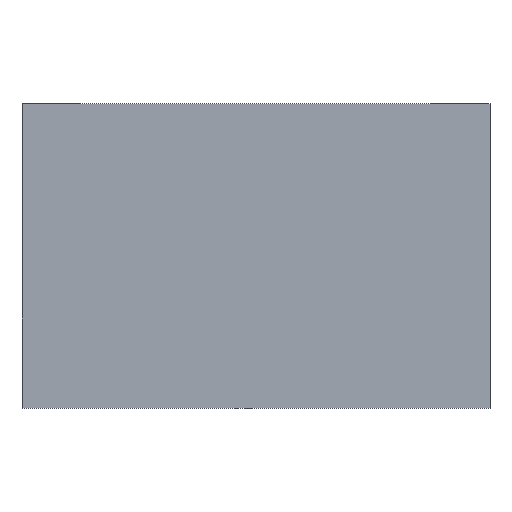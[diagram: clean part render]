
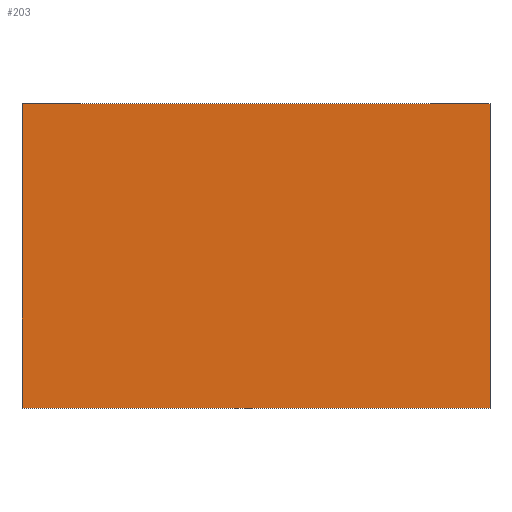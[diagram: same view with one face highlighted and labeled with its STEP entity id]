
A CAD part, top view. The second image highlights one B-rep face of the part: STEP entity #203.
In plain terms, the highlighted planar face has unit normal (0, 0, 1).
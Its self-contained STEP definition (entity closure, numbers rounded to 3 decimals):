
#37 = FACE_OUTER_BOUND ( 'NONE', #604, .T. ) ;
#38 = CARTESIAN_POINT ( 'NONE',  ( 10., 11.1, 0. ) ) ;
#45 = VERTEX_POINT ( 'NONE', #630 ) ;
#84 = DIRECTION ( 'NONE',  ( -1., 0., 0. ) ) ;
#95 = CARTESIAN_POINT ( 'NONE',  ( 10., 11.1, 0. ) ) ;
#167 = VERTEX_POINT ( 'NONE', #597 ) ;
#180 = EDGE_CURVE ( 'NONE', #446, #45, #657, .T. ) ;
#203 = ADVANCED_FACE ( 'NONE', ( #37 ), #460, .F. ) ;
#213 = VECTOR ( 'NONE', #297, 1000. ) ;
#233 = LINE ( 'NONE', #240, #317 ) ;
#238 = DIRECTION ( 'NONE',  ( 0., 0., -1. ) ) ;
#240 = CARTESIAN_POINT ( 'NONE',  ( 10., -1.9, 0. ) ) ;
#244 = EDGE_CURVE ( 'NONE', #45, #619, #557, .T. ) ;
#289 = ORIENTED_EDGE ( 'NONE', *, *, #180, .T. ) ;
#297 = DIRECTION ( 'NONE',  ( -1., 0., 0. ) ) ;
#306 = ORIENTED_EDGE ( 'NONE', *, *, #398, .F. ) ;
#317 = VECTOR ( 'NONE', #84, 1000. ) ;
#352 = ORIENTED_EDGE ( 'NONE', *, *, #498, .F. ) ;
#365 = LINE ( 'NONE', #38, #389 ) ;
#389 = VECTOR ( 'NONE', #602, 1000. ) ;
#398 = EDGE_CURVE ( 'NONE', #167, #619, #233, .T. ) ;
#430 = CARTESIAN_POINT ( 'NONE',  ( -10., -1.9, 0. ) ) ;
#446 = VERTEX_POINT ( 'NONE', #516 ) ;
#460 = PLANE ( 'NONE',  #510 ) ;
#498 = EDGE_CURVE ( 'NONE', #446, #167, #365, .T. ) ;
#504 = DIRECTION ( 'NONE',  ( 0., 1., 0. ) ) ;
#509 = CARTESIAN_POINT ( 'NONE',  ( -10., 11.1, 0. ) ) ;
#510 = AXIS2_PLACEMENT_3D ( 'NONE', #603, #238, #504 ) ;
#516 = CARTESIAN_POINT ( 'NONE',  ( 10., 11.1, 0. ) ) ;
#528 = ORIENTED_EDGE ( 'NONE', *, *, #244, .T. ) ;
#557 = LINE ( 'NONE', #509, #608 ) ;
#597 = CARTESIAN_POINT ( 'NONE',  ( 10., -1.9, 0. ) ) ;
#602 = DIRECTION ( 'NONE',  ( 0., -1., 0. ) ) ;
#603 = CARTESIAN_POINT ( 'NONE',  ( 10., 11.1, 0. ) ) ;
#604 = EDGE_LOOP ( 'NONE', ( #289, #528, #306, #352 ) ) ;
#608 = VECTOR ( 'NONE', #609, 1000. ) ;
#609 = DIRECTION ( 'NONE',  ( 0., -1., 0. ) ) ;
#619 = VERTEX_POINT ( 'NONE', #430 ) ;
#630 = CARTESIAN_POINT ( 'NONE',  ( -10., 11.1, 0. ) ) ;
#657 = LINE ( 'NONE', #95, #213 ) ;
